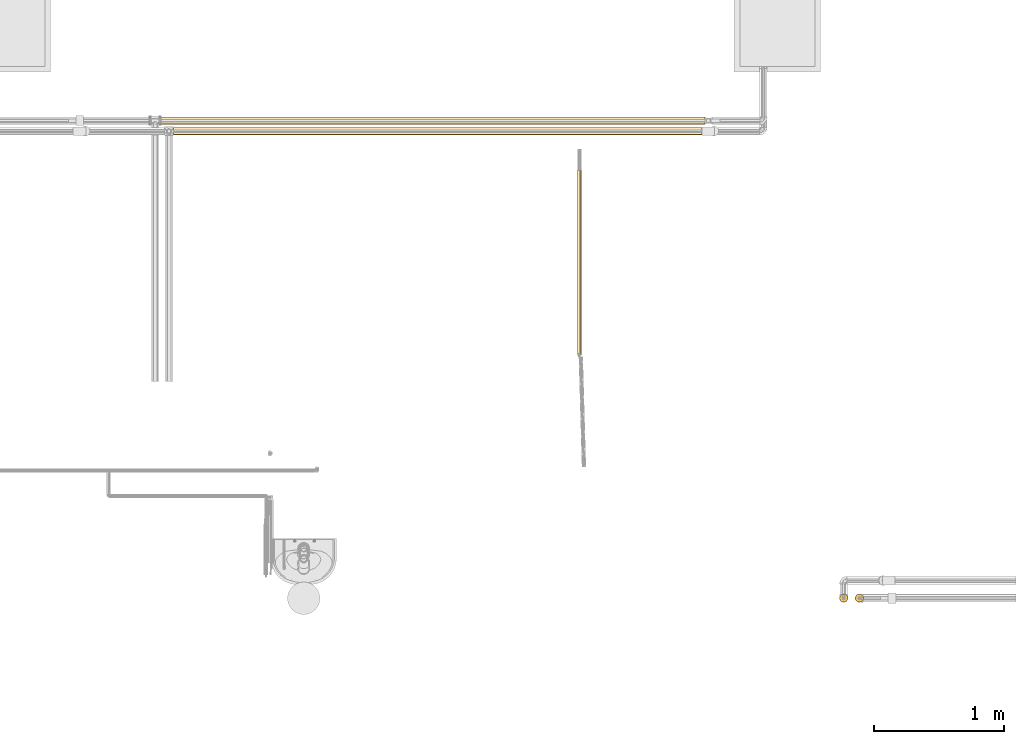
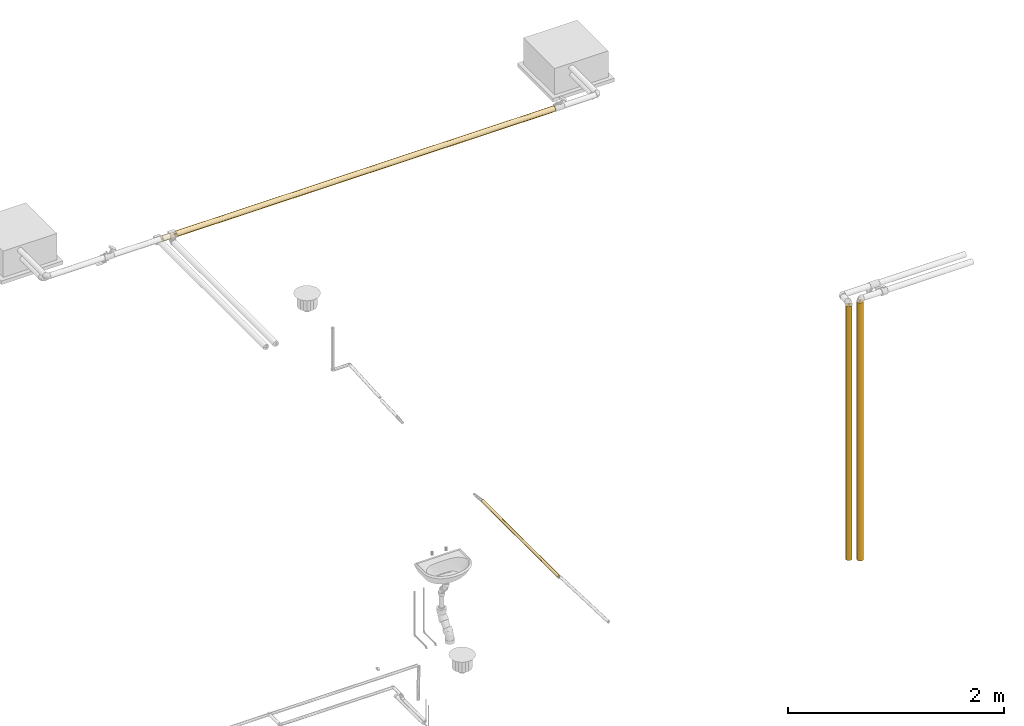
# One storey, part 2 of 108: 5 coverings.
"""IFC2X3 building model written with IfcOpenShell, lengths in millimetres."""

from ifc_helpers import new_model, entity, si_unit, converted_unit, derived_unit, direction, frame, origin_with_axes, origin_2d_with_axis, place, context, subcontext, project, spatial, hollow_circle, extrude, source, transform, mapped, element, save


model = new_model("IFC2X3")

# Units and contexts
model_context = context("Model", 3, precision=0.01, world=frame((0.0, 4.29681676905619e-09, 0.0)), true_north=direction((4.01073788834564e-13, 1.0)))
plan_context = context("Plan", 3, precision=0.01, world=frame((0.0, 4.29681676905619e-09, 0.0)), true_north=direction((4.01073788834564e-13, 1.0)))
body_context = subcontext(model_context, "Body", "Model", "MODEL_VIEW")
ifc_project = project(units=[converted_unit("PLANEANGLEUNIT", "DEGREE", entity("IfcPositiveLengthMeasure", 0.0174532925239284), si_unit("PLANEANGLEUNIT", "RADIAN"), dimensions=[0, 0, 0, 0, 0, 0, 0]), si_unit("AREAUNIT", "SQUARE_METRE"), si_unit("LENGTHUNIT", "METRE", prefix="MILLI"), si_unit("MASSUNIT", "GRAM", prefix="KILO"), si_unit("POWERUNIT", "WATT"), si_unit("PRESSUREUNIT", "PASCAL", prefix="KILO"), si_unit("FORCEUNIT", "NEWTON", prefix="KILO"), si_unit("ELECTRICVOLTAGEUNIT", "VOLT"), si_unit("ELECTRICCURRENTUNIT", "AMPERE"), si_unit("THERMODYNAMICTEMPERATUREUNIT", "DEGREE_CELSIUS"), si_unit("TIMEUNIT", "SECOND"), si_unit("VOLUMEUNIT", "CUBIC_METRE"), derived_unit("LINEARVELOCITYUNIT", [(si_unit("LENGTHUNIT", "METRE"), 1), (si_unit("TIMEUNIT", "SECOND"), -1)]), derived_unit("VOLUMETRICFLOWRATEUNIT", [(si_unit("VOLUMEUNIT", "CUBIC_METRE"), 1), (si_unit("TIMEUNIT", "SECOND"), -1)]), derived_unit("THERMALTRANSMITTANCEUNIT", [(si_unit("POWERUNIT", "WATT"), 1), (si_unit("THERMODYNAMICTEMPERATUREUNIT", "KELVIN"), -1), (si_unit("AREAUNIT", "SQUARE_METRE"), -1)]), derived_unit("SOUNDPRESSUREUNIT", [(si_unit("PRESSUREUNIT", "PASCAL"), 1)])], contexts=[model_context, plan_context])

# Site, building, storey
site_placement = place(None, frame((0.0, -4.29681676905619e-09, 0.0), z_axis=(0.0, 0.0, 1.0), x_axis=(1.0, 0.0, 0.0)))
site = spatial("IfcSite", under=ifc_project, at=site_placement, CompositionType="ELEMENT")
building_placement = place(site_placement, frame((0.0, 4.29681676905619e-09, 0.0), z_axis=(0.0, 0.0, 1.0), x_axis=(1.0, 0.0, 0.0)))
building = spatial("IfcBuilding", under=site, at=building_placement, Name="mc-building", CompositionType="ELEMENT")
storey_placement = place(building_placement, frame((0.0, 0.0, 210200.0), z_axis=(0.0, 0.0, 1.0), x_axis=(1.0, 0.0, 0.0)))
storey = spatial("IfcBuildingStorey", under=building, at=storey_placement, Name="Nivå F - 0,7 m", CompositionType="ELEMENT", Elevation=210200.0)

# Coverings
shared_shape_1 = source(origin_with_axes(), body_context, "Body", "SweptSolid", [
    extrude(hollow_circle(Radius=31.0, WallThickness=21.0, at=origin_2d_with_axis()), frame((0.0, 0.0, 0.0), z_axis=(1.0, 0.0, 0.0), x_axis=(0.0, 1.0, 0.0)), (0.0, 0.0, 1.0), 2871.9),
])
covering_1_placement = place(storey_placement, frame((343548.98104, 460323.91341, -353.200000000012), z_axis=(1.0, 0.0, 0.0), x_axis=(0.0, 0.0, 1.0)))
element("IfcCovering", 1, at=covering_1_placement, inside=storey, Name="BI10T - Cellegummi 18-32 mm kalde rør", PredefinedType="INSULATION", context=body_context, shape_type="MappedRepresentation", body=[
    mapped(shared_shape_1, transform((0.0, 0.0, 0.0), scale=1.0)),
])
shared_shape_2 = source(origin_with_axes(), body_context, "Body", "SweptSolid", [
    extrude(hollow_circle(Radius=28.0, WallThickness=18.0, at=origin_2d_with_axis()), frame((0.0, 0.0, 0.0), z_axis=(1.0, 0.0, 0.0), x_axis=(0.0, 1.0, 0.0)), (0.0, 0.0, 1.0), 4172.6),
])
covering_2_placement = place(storey_placement, frame((338312.86087, 463983.47358, 2880.0), z_axis=(0.0, 0.0, 1.0), x_axis=(1.0, 0.0, 0.0)))
element("IfcCovering", 2, at=covering_2_placement, inside=storey, Name="BI10T - Cellegummi 18-32 mm kalde rør", PredefinedType="INSULATION", context=body_context, shape_type="MappedRepresentation", body=[
    mapped(shared_shape_2, transform((0.0, 0.0, 0.0), scale=1.0)),
])
shared_shape_3 = source(origin_with_axes(), body_context, "Body", "SweptSolid", [
    extrude(hollow_circle(Radius=31.0, WallThickness=21.0, at=origin_2d_with_axis()), frame((0.0, 0.0, 0.0), z_axis=(1.0, 0.0, 0.0), x_axis=(0.0, 1.0, 0.0)), (0.0, 0.0, 1.0), 2920.7),
])
covering_3_placement = place(storey_placement, frame((343668.98104, 460323.91341, -402.070570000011), z_axis=(0.0, -1.0, 0.0), x_axis=(0.0, 0.0, 1.0)))
element("IfcCovering", 3, at=covering_3_placement, inside=storey, Name="BI10T - Cellegummi 18-32 mm kalde rør", PredefinedType="INSULATION", context=body_context, shape_type="MappedRepresentation", body=[
    mapped(shared_shape_3, transform((0.0, 0.0, 0.0), scale=1.0)),
])
shared_shape_4 = source(origin_with_axes(), body_context, "Body", "SweptSolid", [
    extrude(hollow_circle(Radius=28.0, WallThickness=18.0, at=origin_2d_with_axis()), frame((0.0, 0.0, 0.0), z_axis=(1.0, 0.0, 0.0), x_axis=(0.0, 1.0, 0.0)), (0.0, 0.0, 1.0), 4051.1),
])
covering_4_placement = place(storey_placement, frame((338410.95721, 463903.47358, 2948.0), z_axis=(0.0, 0.0, 1.0), x_axis=(1.0, 0.0, 0.0)))
element("IfcCovering", 4, at=covering_4_placement, inside=storey, Name="BI10T - Cellegummi 18-32 mm kalde rør", PredefinedType="INSULATION", context=body_context, shape_type="MappedRepresentation", body=[
    mapped(shared_shape_4, transform((0.0, 0.0, 0.0), scale=1.0)),
])
shared_shape_5 = source(origin_with_axes(), body_context, "Body", "SweptSolid", [
    extrude(hollow_circle(Radius=16.0, WallThickness=10.0, at=origin_2d_with_axis()), frame((0.0, 0.0, 0.0), z_axis=(1.0, 0.0, 0.0), x_axis=(0.0, 1.0, 0.0)), (0.0, 0.0, 1.0), 1413.1),
])
covering_5_placement = place(storey_placement, frame((341524.45116, 463606.39625, -981.678400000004), z_axis=(0.0, 0.0, 1.0), x_axis=(0.0, -1.0, 0.0)))
element("IfcCovering", 5, at=covering_5_placement, inside=storey, Name="BI10T - Cellegummi 18-32 mm kalde rør", PredefinedType="INSULATION", context=body_context, shape_type="MappedRepresentation", body=[
    mapped(shared_shape_5, transform((0.0, 0.0, 0.0), scale=1.0)),
])

save(model, "model.ifc")
